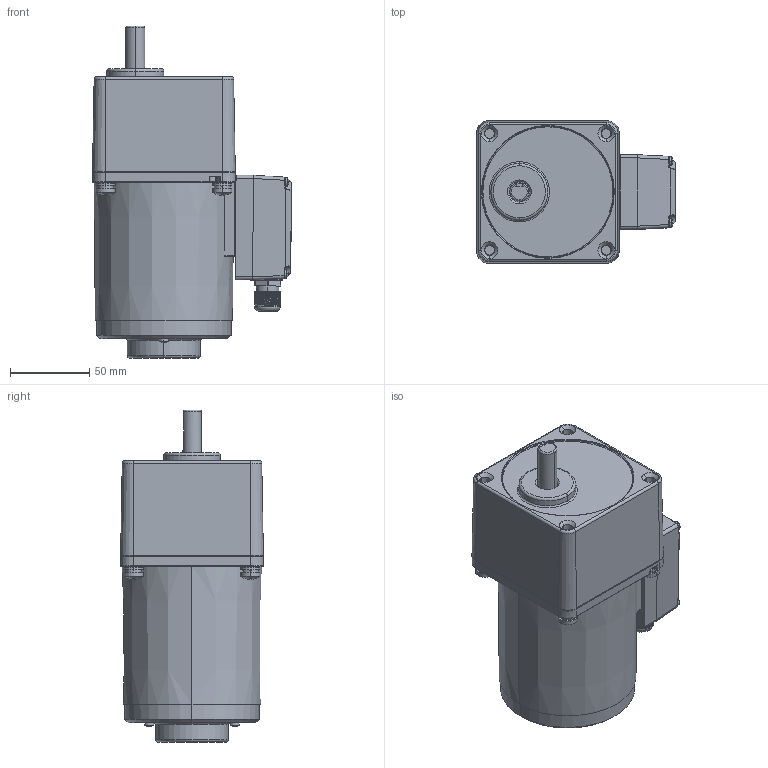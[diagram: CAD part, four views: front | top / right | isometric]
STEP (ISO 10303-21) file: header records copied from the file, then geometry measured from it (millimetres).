
FILE_DESCRIPTION (( 'STEP AP203' ), '1' );
FILE_NAME ('5IK40RGN-CT(5GN3K-200K).STEP', '2023-08-08T05:15:39', ( 'Windows User' ), ( 'P R C' ), 'SwSTEP 2.0', 'SolidWorks 2019', '' );
FILE_SCHEMA (( 'CONFIG_CONTROL_DESIGN' ));
Length unit declared in the file: millimetre
Products named in the file (16): 5GN3K__200K^5IK40RGN-CT(5GN3K-200K)(2)_5IK40RGN-CT(5GN3K-200K); 葩璃 (2) ^_70TSJXHG___5IK40RGN-CT(5GN3K-200K)(2)_5IK40RGN-CT(5GN3K-200K); ^5IK40RGN-CT(5GN3K-200K)(2)_5IK40RGN-CT(5GN3K-200K); ^_70TSJXHG___5IK40RGN-CT(5GN3K-200K)(2)_5IK40RGN-CT(5GN3K-200K); 5IK40RGN-CT(5GN3K-200K)(2)^5IK40RGN-CT(5GN3K-200K); 葩璃 (3) ^_70TSJXHG___5IK40RGN-CT(5GN3K-200K)(2)_5IK40RGN-CT(5GN3K-200K); ^_5IK40RGN-CT(5GN3K-200K)(2)_5IK40RGN-CT(5GN3K-200K); 葩璃 (2) ^____5IK40RGN-CT(5GN3K-200K)(2)_5IK40RGN-CT(5GN3K-200K); 70TSJXHG^__5IK40RGN-CT(5GN3K-200K)(2)_5IK40RGN-CT(5GN3K-200K); ^___5IK40RGN-CT(5GN3K-200K)(2)_5IK40RGN-CT(5GN3K-200K); ^__5IK40RGN-CT(5GN3K-200K)(2)_5IK40RGN-CT(5GN3K-200K); ^____5IK40RGN-CT(5GN3K-200K)(2)_5IK40RGN-CT(5GN3K-200K); 葩璃 (3) ^____5IK40RGN-CT(5GN3K-200K)(2)_5IK40RGN-CT(5GN3K-200K); 5IK40RGN-CT(5GN3K-200K); ^70TSJXHG___5IK40RGN-CT(5GN3K-200K)(2)_5IK40RGN-CT(5GN3K-200K)
Assembly tree (18 placements, depth 7):
  5IK40RGN-CT(5GN3K-200K)
    5IK40RGN-CT(5GN3K-200K)(2)^5IK40RGN-CT(5GN3K-200K)
      ^5IK40RGN-CT(5GN3K-200K)(2)_5IK40RGN-CT(5GN3K-200K)
        ^_5IK40RGN-CT(5GN3K-200K)(2)_5IK40RGN-CT(5GN3K-200K)
          70TSJXHG^__5IK40RGN-CT(5GN3K-200K)(2)_5IK40RGN-CT(5GN3K-200K)
            ^70TSJXHG___5IK40RGN-CT(5GN3K-200K)(2)_5IK40RGN-CT(5GN3K-200K)
              ^_70TSJXHG___5IK40RGN-CT(5GN3K-200K)(2)_5IK40RGN-CT(5GN3K-200K)
              葩璃 (2) ^_70TSJXHG___5IK40RGN-CT(5GN3K-200K)(2)_5IK40RGN-CT(5GN3K-200K)
              葩璃 (3) ^_70TSJXHG___5IK40RGN-CT(5GN3K-200K)(2)_5IK40RGN-CT(5GN3K-200K)  x4
          ^__5IK40RGN-CT(5GN3K-200K)(2)_5IK40RGN-CT(5GN3K-200K)
            ^___5IK40RGN-CT(5GN3K-200K)(2)_5IK40RGN-CT(5GN3K-200K)
              ^____5IK40RGN-CT(5GN3K-200K)(2)_5IK40RGN-CT(5GN3K-200K)
              葩璃 (2) ^____5IK40RGN-CT(5GN3K-200K)(2)_5IK40RGN-CT(5GN3K-200K)
              葩璃 (3) ^____5IK40RGN-CT(5GN3K-200K)(2)_5IK40RGN-CT(5GN3K-200K)
          ^__5IK40RGN-CT(5GN3K-200K)(2)_5IK40RGN-CT(5GN3K-200K)
      5GN3K__200K^5IK40RGN-CT(5GN3K-200K)(2)_5IK40RGN-CT(5GN3K-200K)
Bounding box: 125.44 x 90 x 209.25 mm (x, y, z)
Volume: 1220394.1 mm3; surface area: 136318.2 mm2
Topology: 41 solids, 41 shells, 1908 faces, 4885 edges, 3076 vertices
Faces by surface type: cylinder 665, plane 525, cone 503, torus 101, sphere 96, bspline 18
Entity records: 53421 total; most frequent: CARTESIAN_POINT 14198, DIRECTION 8383, ORIENTED_EDGE 7698, EDGE_CURVE 3849, AXIS2_PLACEMENT_3D 3462, VERTEX_POINT 2460, CIRCLE 1931, EDGE_LOOP 1617
